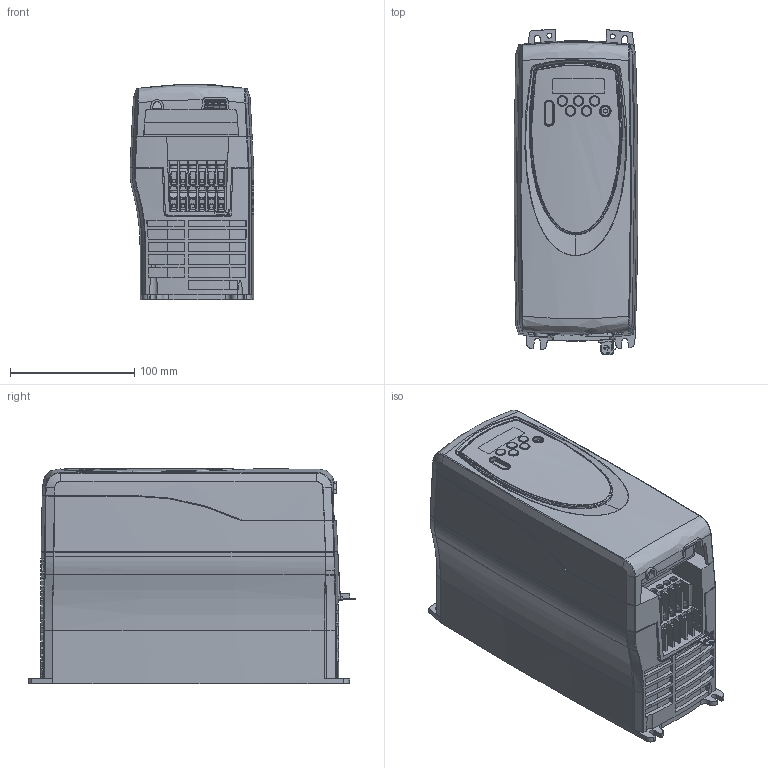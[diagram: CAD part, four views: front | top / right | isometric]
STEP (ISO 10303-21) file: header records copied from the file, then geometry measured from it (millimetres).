
FILE_DESCRIPTION((''),'2;1');
FILE_NAME('PK-SEQ-SK-C-ALL-NOSTIC-N-OPTION','2006-12-19T',('summne01'),(''),'PRO/ENGINEER BY PARAMETRIC TECHNOLOGY CORPORATION, 2006320','PRO/ENGINEER BY PARAMETRIC TECHNOLOGY CORPORATION, 2006320','');
FILE_SCHEMA(('CONFIG_CONTROL_DESIGN'));
Length unit declared in the file: millimetre
Products named in the file (1): PK-SEQ-SK-C-ALL-NOSTIC-N-OPTION
Bounding box: 99.9 x 262.71 x 173.8 mm (x, y, z)
Surface area: 431161 mm2 (no closed solid volume)
Topology: 0 solids, 212 shells, 2446 faces, 9393 edges, 6915 vertices
Faces by surface type: plane 1597, cylinder 595, bspline 133, cone 90, torus 28, sphere 3
Entity records: 109978 total; most frequent: CARTESIAN_POINT 35895, ORIENTED_EDGE 14490, DIRECTION 13480, EDGE_CURVE 9377, VERTEX_POINT 6907, VECTOR 6314, LINE 6314, AXIS2_PLACEMENT_3D 3583
